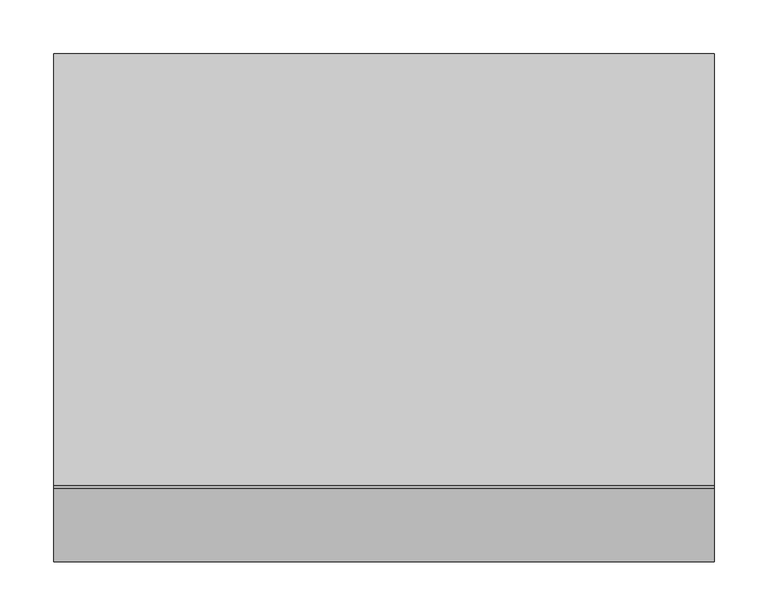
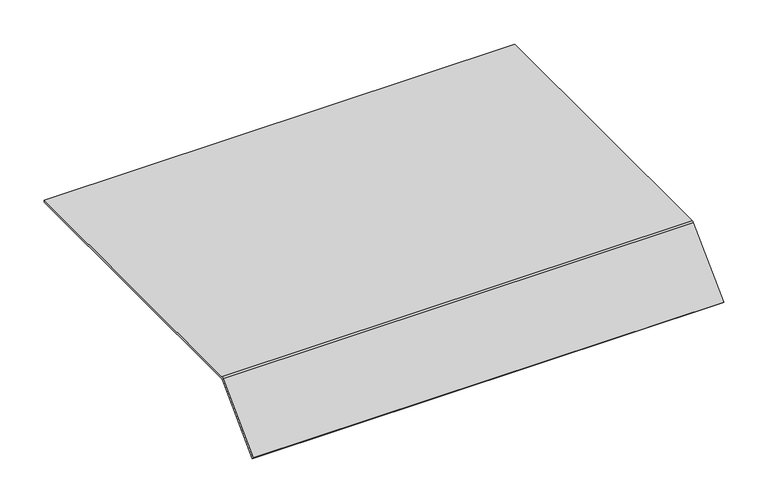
"""IFC4 building model written with IfcOpenShell, lengths in millimetres: proxy geometry, Electrical_Installation_Hager_Blank-Cover-800mm-Single-Sided-Height-70mm : Electrical_Installation_Hager_Blank-Cover-800mm-Single-Sided-Height-70mm."""

from ifc_helpers import new_model, si_unit, point, frame, frame_2d, origin, place, context, project, spatial, polyline, circle_curve, trimmed, segment, composite_curve, outline, extrude, source, transform, mapped, element, save


def electrical_fixtures_d915aaa8(model_context):
    return source(origin(), model_context, "Body", "SweptSolid", [
        extrude(outline(composite_curve([segment(polyline([(200.0, 40.5), (200.0, 37.5), (-199.8229541, 37.5)]), True, "CONTINUOUS"), segment(trimmed(circle_curve(frame_2d((-199.8229541, 36.0725733)), 1.4274267), [point((-199.8229541, 37.5))], [point((-200.8322972, 37.0819164))], True, "CARTESIAN"), True, "CONTINUOUS"), segment(polyline([(-200.8322972, 37.0819164), (-268.6627596, -30.7485461), (-270.78408, -28.6272257), (-202.8206472, 39.336207)]), True, "CONTINUOUS"), segment(trimmed(circle_curve(frame_2d((-200.0110025, 36.5265623)), 3.9734377), [point((-202.8206472, 39.336207))], [point((-200.0110025, 40.5))], False, "CARTESIAN"), True, "CONTINUOUS"), segment(polyline([(-200.0110025, 40.5), (200.0, 40.5)]), True, "CONTINUOUS")], self_intersect=False)), frame((0.0, 0.0, 0.0), z_axis=(1.0, 0.0, 0.0), x_axis=(0.0, 1.0, 0.0)), (0.0, 0.0, 1.0), 611.6956759),
    ])


if __name__ == "__main__":
    model = new_model("IFC4")
    model_context = context("Model", 3, world=origin())
    ifc_project = project(units=[si_unit("LENGTHUNIT", "METRE", prefix="MILLI")], contexts=[model_context])
    site = spatial("IfcSite", under=ifc_project)
    building = spatial("IfcBuilding", under=site)
    placement = place(None, origin())
    electrical_fixtures_shape = electrical_fixtures_d915aaa8(model_context)
    element("IfcBuildingElementProxy", 1, Name="Electrical_Installation_Hager_Blank-Cover-800mm-Single-Sided-Height-70mm : Electrical_Installation_Hager_Blank-Cover-800mm-Single-Sided-Height-70mm", ObjectType="Electrical_Installation_Hager_Blank-Cover-800mm-Single-Sided-Height-70mm : Electrical_Installation_Hager_Blank-Cover-800mm-Single-Sided-Height-70mm", at=placement, inside=building, context=model_context, shape_type="MappedRepresentation", body=[
        mapped(electrical_fixtures_shape, transform((0.0, 0.0, 0.0), x_axis=(1.0, 0.0, 0.0), y_axis=(0.0, 1.0, 0.0), z_axis=(0.0, 0.0, 1.0))),
    ])
    save(model, "model.ifc")
